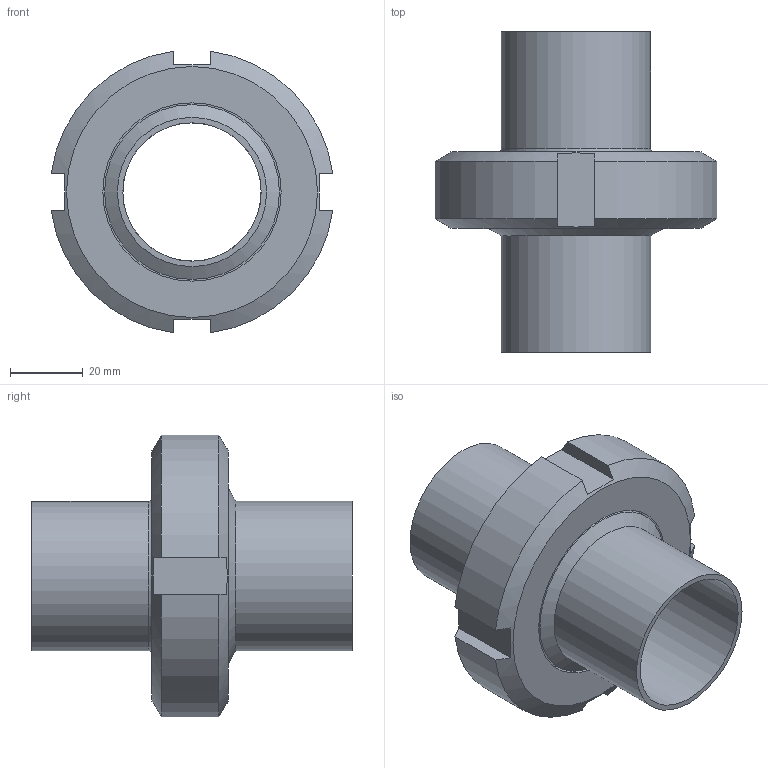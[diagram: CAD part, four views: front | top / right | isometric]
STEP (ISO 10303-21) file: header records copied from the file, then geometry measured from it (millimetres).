
FILE_DESCRIPTION(/* description */ ('Aseptik_Rohrverbindung_DIN 11864-1-A_41x1,50_L88'),/* implementation_level */ '2;1');
FILE_NAME(/* name */ 'L:\Normteile\N0024 - Rohrverbindungen\N0024_002 - DIN11864\N0024_002_001 - geschraubt\N0024_002_001\Step Marketing\DIN11864-1-A_41x1,50_L88.stp',/* time_stamp */ '2021-08-31T10:19:45+02:00',/* author */ ('Csasse'),/* organization */ ('Dockweiler AG'),/* preprocessor_version */ 'ST-DEVELOPER v18',/* originating_system */ 'Autodesk Inventor 2020',/* authorisation */ '');
FILE_SCHEMA (('AUTOMOTIVE_DESIGN { 1 0 10303 214 3 1 1 }'));
Length unit declared in the file: millimetre
Products named in the file (5): N0024_002_001_34; N0003_007_001_06; N0003_007_002_06; N0005_005_002_001_05; N0009_009_16
Assembly tree (4 placements, depth 2):
  N0024_002_001_34
    N0003_007_001_06
    N0003_007_002_06
    N0005_005_002_001_05
    N0009_009_16
Bounding box: 77.36 x 88 x 77.36 mm (x, y, z)
Volume: 85631.8 mm3; surface area: 48044.6 mm2
Topology: 4 solids, 4 shells, 60 faces, 176 edges, 128 vertices
Faces by surface type: plane 24, cylinder 14, torus 12, cone 10
Full cylindrical faces by diameter (mm): 38 x2, 41 x2, 48 x1, 49 x1, 54.9 x1, 55 x1, 60.767 x1, 65.423 x1
Entity records: 2344 total; most frequent: CARTESIAN_POINT 425, DIRECTION 402, ORIENTED_EDGE 352, AXIS2_PLACEMENT_3D 183, EDGE_CURVE 176, VERTEX_POINT 128, CIRCLE 114, EDGE_LOOP 72
